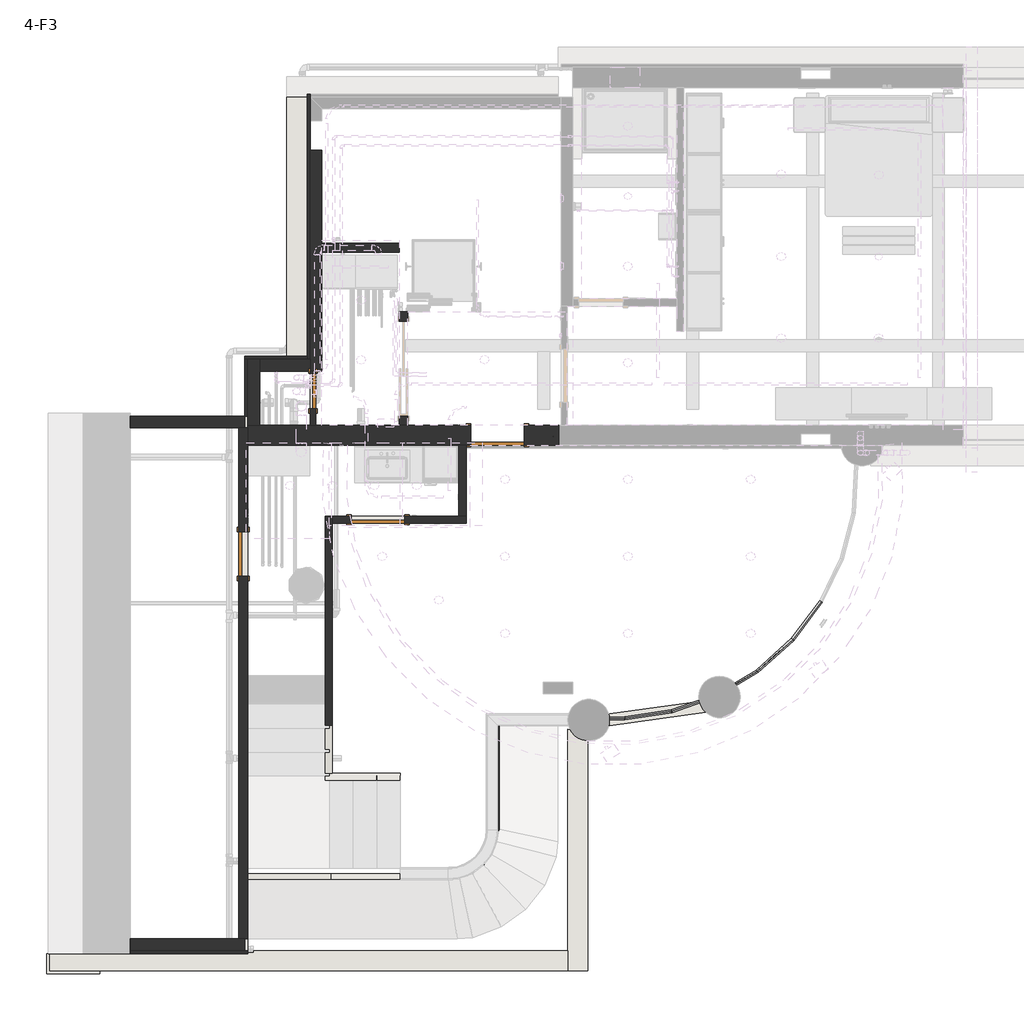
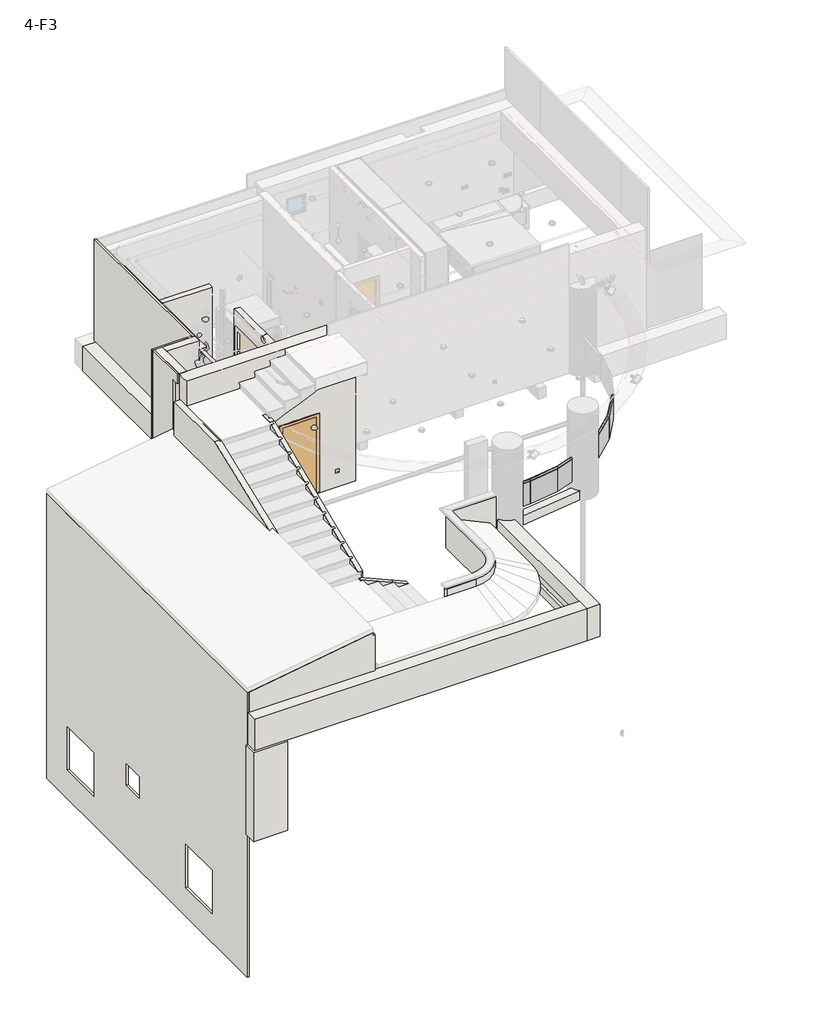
# One storey, part 1 of 11: 31 walls, 6 members, 6 plates, 4 doors.
"""IFC4 building model written with IfcOpenShell, lengths in millimetres."""

from ifc_helpers import new_model, si_unit, point, frame, frame_2d, origin, place, context, project, spatial, polyline, circle_curve, trimmed, segment, composite_curve, outline, extrude, faceted_brep, transform, mapped, element, save
from ifc_brep_helpers import plane_surface, revolved_surface, advanced_brep
from components import m_single_flush_0750x120mm_57592dc2, m_single_flush_0900_x_2100mm_0846cce0, m_single_flush_0900_x_2400mm_ed8d41a7, m_single_flush_600x160mm_9ce3fd48, circular_mullion_25mm_radius_00b6462a, circular_mullion_25mm_radius_450b6582, circular_mullion_25mm_radius_713549ac, system_panel_glazed_cc563820, system_panel_glazed_07a81bf9

model = new_model("IFC4")

# Units and contexts
model_context = context("Model", 3, world=origin())
ifc_project = project(units=[si_unit("LENGTHUNIT", "METRE", prefix="MILLI")], contexts=[model_context])

# Site, building, storey
site = spatial("IfcSite", under=ifc_project)
building = spatial("IfcBuilding", under=site)
storey = spatial("IfcBuildingStorey", under=building, Name="4-F3", Elevation=9900.0)

# Doors
placement = place(None, origin())
m_single_flush_0750x120mm_shape = m_single_flush_0750x120mm_57592dc2(model_context)
element("IfcDoor", 1, ObjectType="M_Single-Flush : 0750x120mm", at=placement, inside=storey, context=model_context, shape_type="MappedRepresentation", body=[
    mapped(m_single_flush_0750x120mm_shape, transform((-6185.0, 1001.4863231, 9950.0), x_axis=(0.0, 1.0, 0.0), y_axis=(-1.0, 0.0, 0.0), z_axis=(0.0, 0.0, 1.0))),
])
m_single_flush_0900_x_2100mm_shape = m_single_flush_0900_x_2100mm_0846cce0(model_context)
element("IfcDoor", 2, ObjectType="M_Single-Flush : 0900 x 2100mm", at=placement, inside=storey, context=model_context, shape_type="MappedRepresentation", body=[
    mapped(m_single_flush_0900_x_2100mm_shape, transform((-3913.9765921, 1580.6486583, 9950.0), x_axis=(-1.0, 0.0, 0.0), y_axis=(0.0, -1.0, 0.0), z_axis=(0.0, 0.0, 1.0))),
])
m_single_flush_0900_x_2400mm_shape = m_single_flush_0900_x_2400mm_ed8d41a7(model_context)
element("IfcDoor", 3, ObjectType="M_Single-Flush : 0900 x 2400mm", at=placement, inside=storey, context=model_context, shape_type="MappedRepresentation", body=[
    mapped(m_single_flush_0900_x_2400mm_shape, transform((-1901.5261339, 3000.6486583, 9900.0), x_axis=(-1.0, 0.0, 0.0), y_axis=(0.0, -1.0, 0.0), z_axis=(0.0, 0.0, 1.0))),
])
m_single_flush_600x160mm_shape = m_single_flush_600x160mm_9ce3fd48(model_context)
element("IfcDoor", 4, ObjectType="M_Single-Flush : 600x160mm", at=placement, inside=storey, context=model_context, shape_type="MappedRepresentation", body=[
    mapped(m_single_flush_600x160mm_shape, transform((-5007.4765921, 3750.4711943, 10850.0), x_axis=(0.0, -1.0, 0.0), y_axis=(1.0, 0.0, 0.0), z_axis=(0.0, 0.0, 1.0))),
])

# Members
circular_mullion_25mm_radius_shape = circular_mullion_25mm_radius_00b6462a(model_context)
element("IfcMember", 5, ObjectType="Circular Mullion : 25mm Radius", at=placement, inside=storey, context=model_context, shape_type="MappedRepresentation", body=[
    mapped(circular_mullion_25mm_radius_shape, transform((1036.0423677, -1651.0312758, 11010.0), x_axis=(0.0, 0.0, 1.0), y_axis=(-0.3353212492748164, 0.9421038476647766, 0.0), z_axis=(-0.9421038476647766, -0.3353212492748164, 0.0))),
])
element("IfcMember", 6, ObjectType="Circular Mullion : 25mm Radius", at=placement, inside=storey, context=model_context, shape_type="MappedRepresentation", body=[
    mapped(circular_mullion_25mm_radius_shape, transform((1789.7254458, -1382.7742764, 11010.0), x_axis=(0.0, 0.0, 1.0), y_axis=(-0.5114907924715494, 0.8592887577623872, 0.0), z_axis=(-0.8592887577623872, -0.5114907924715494, 0.0))),
])
element("IfcMember", 7, ObjectType="Circular Mullion : 25mm Radius", at=placement, inside=storey, context=model_context, shape_type="MappedRepresentation", body=[
    mapped(circular_mullion_25mm_radius_shape, transform((2477.1564521, -973.5816424, 11010.0), x_axis=(0.0, 0.0, 1.0), y_axis=(-0.6682778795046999, 0.743911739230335, 0.0), z_axis=(-0.7439117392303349, -0.6682778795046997, 0.0))),
])
element("IfcMember", 8, ObjectType="Circular Mullion : 25mm Radius", at=placement, inside=storey, context=model_context, shape_type="MappedRepresentation", body=[
    mapped(circular_mullion_25mm_radius_shape, transform((3072.2858434, -438.9593388, 11010.0), x_axis=(0.0, 0.0, 1.0), y_axis=(-0.7997412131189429, 0.6003448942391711, 0.0), z_axis=(-0.6003448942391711, -0.7997412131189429, 0.0))),
])
circular_mullion_25mm_radius_2_shape = circular_mullion_25mm_radius_450b6582(model_context)
element("IfcMember", 9, ObjectType="Circular Mullion : 25mm Radius", at=placement, inside=storey, context=model_context, shape_type="MappedRepresentation", body=[
    mapped(circular_mullion_25mm_radius_2_shape, transform((244.6673197, -1768.1872973, 11010.0), x_axis=(0.0, 0.0, 1.0), y_axis=(-0.14644502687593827, 0.9892188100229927, 0.0), z_axis=(-0.9892188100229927, -0.14644502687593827, 0.0))),
])
circular_mullion_25mm_radius_3_shape = circular_mullion_25mm_radius_713549ac(model_context)
element("IfcMember", 10, ObjectType="Circular Mullion : 25mm Radius", at=placement, inside=storey, context=model_context, shape_type="MappedRepresentation", body=[
    mapped(circular_mullion_25mm_radius_3_shape, transform((-12.7712602, -1772.8617996, 11010.0), x_axis=(0.0, 0.0, 1.0), y_axis=(-0.01815474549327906, 0.9998351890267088, 0.0), z_axis=(-0.9998351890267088, -0.01815474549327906, 0.0))),
])

# Plates
system_panel_glazed_shape = system_panel_glazed_cc563820(model_context)
element("IfcPlate", 11, ObjectType="System Panel : Glazed", at=placement, inside=storey, context=model_context, shape_type="MappedRepresentation", body=[
    mapped(system_panel_glazed_shape, transform((3312.4238011, -119.0628535, 10330.0), x_axis=(-0.6003448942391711, -0.7997412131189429, 0.0), y_axis=(0.7997412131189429, -0.6003448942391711, 0.0), z_axis=(0.0, 0.0, 1.0))),
])
element("IfcPlate", 12, ObjectType="System Panel : Glazed", at=placement, inside=storey, context=model_context, shape_type="MappedRepresentation", body=[
    mapped(system_panel_glazed_shape, transform((2774.7211477, -706.2704906, 10330.0), x_axis=(-0.7439117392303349, -0.6682778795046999, 0.0), y_axis=(0.6682778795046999, -0.7439117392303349, 0.0), z_axis=(0.0, 0.0, 1.0))),
])
element("IfcPlate", 13, ObjectType="System Panel : Glazed", at=placement, inside=storey, context=model_context, shape_type="MappedRepresentation", body=[
    mapped(system_panel_glazed_shape, transform((2133.4409489, -1178.1779594, 10330.0), x_axis=(-0.8592887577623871, -0.5114907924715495, 0.0), y_axis=(0.5114907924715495, -0.8592887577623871, 0.0), z_axis=(0.0, 0.0, 1.0))),
])
element("IfcPlate", 14, ObjectType="System Panel : Glazed", at=placement, inside=storey, context=model_context, shape_type="MappedRepresentation", body=[
    mapped(system_panel_glazed_shape, transform((1412.8839068, -1516.9027761, 10330.0), x_axis=(-0.9421038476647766, -0.3353212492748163, 0.0), y_axis=(0.3353212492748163, -0.9421038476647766, 0.0), z_axis=(0.0, 0.0, 1.0))),
])
element("IfcPlate", 15, ObjectType="System Panel : Glazed", at=placement, inside=storey, context=model_context, shape_type="MappedRepresentation", body=[
    mapped(system_panel_glazed_shape, transform((640.3548437, -1709.6092865, 10330.0), x_axis=(-0.9892188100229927, -0.14644502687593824, 0.0), y_axis=(0.14644502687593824, -0.9892188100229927, 0.0), z_axis=(0.0, 0.0, 1.0))),
])
system_panel_glazed_2_shape = system_panel_glazed_07a81bf9(model_context)
element("IfcPlate", 16, ObjectType="System Panel : Glazed", at=placement, inside=storey, context=model_context, shape_type="MappedRepresentation", body=[
    mapped(system_panel_glazed_2_shape, transform((115.9480298, -1770.5245484, 10330.0), x_axis=(-0.9998351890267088, -0.01815474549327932, 0.0), y_axis=(0.01815474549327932, -0.9998351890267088, 0.0), z_axis=(0.0, 0.0, 1.0))),
])

# Walls
element("IfcWall", 17, ObjectType="34cm", at=placement, inside=storey, context=model_context, shape_type="Brep", body=[
    faceted_brep([(-2351.5261339, 3170.6486583, 12325.0), (-2351.5261339, 3170.6486583, 9900.0), (-5907.4765921, 3170.6486583, 9900.0), (-6107.4765921, 3170.6486583, 9900.0), (-6107.4765921, 3170.6486583, 13150.0), (-5907.4765921, 3170.6486583, 13150.0), (-867.4765921, 3170.6486583, 13150.0), (-867.4765921, 3170.6486583, 9900.0), (-1451.5261339, 3170.6486583, 9900.0), (-1451.5261339, 3170.6486583, 12325.0), (-6107.4765921, 2830.6486583, 9900.0), (-2351.5261339, 2830.6486583, 9900.0), (-2351.5261339, 2830.6486583, 12325.0), (-1451.5261339, 2830.6486583, 12325.0), (-1451.5261339, 2830.6486583, 9900.0), (-867.4765921, 2830.6486583, 9900.0), (-867.4765921, 2830.6486583, 13150.0), (-6107.4765921, 2830.6486583, 13150.0), (-6107.4765921, 3000.6486583, 13150.0)], [[[0, 1, 2, 3, 4, 5, 6, 7, 8, 9]], [[10, 11, 12, 13, 14, 15, 16, 17]], [[6, 5, 4, 18, 17, 16]], [[8, 7, 15, 14]], [[3, 2, 1, 11, 10]], [[7, 6, 16, 15]], [[12, 11, 1, 0]], [[13, 12, 0, 9]], [[14, 13, 9, 8]], [[4, 3, 10, 17, 18]]]),
])
element("IfcWall", 18, ObjectType="Generic - 200 balcony", at=placement, inside=storey, context=model_context, shape_type="Brep", body=[
    faceted_brep([(-9417.4765921, -5684.0873245, 9900.0), (-6110.0, -5684.0873245, 9900.0), (-6110.0, -5684.0873245, 10900.0), (-6157.4765921, -5684.0873245, 10900.0), (-6157.4765921, -5684.0873245, 11401.5370187), (-9417.4765921, -5684.0873245, 10892.4236861), (-9417.4765921, -5484.0873245, 9900.0), (-9417.4765921, -5484.0873245, 10892.4236861), (-6157.4765921, -5484.0873245, 11401.5370187), (-6157.4765921, -5484.0873245, 10900.0), (-6110.0, -5484.0873245, 10900.0), (-6110.0, -5484.0873245, 9900.0), (-6260.0, -5484.0873245, 9900.0), (-9217.4765921, -5484.0873245, 9900.0)], [[[0, 1, 2, 3, 4, 5]], [[6, 7, 8, 9, 10, 11, 12, 13]], [[1, 0, 6, 13, 12, 11]], [[2, 1, 11, 10]], [[3, 2, 10, 9]], [[3, 9, 8, 4]], [[5, 4, 8, 7]], [[0, 5, 7, 6]]]),
])
element("IfcWall", 19, ObjectType="Generic - 200 balcony", at=placement, inside=storey, context=model_context, shape_type="Brep", body=[
    faceted_brep([(-9417.4765921, 3126.4863231, 9900.0), (-9217.4765921, 3126.4863231, 9900.0), (-6260.0, 3126.4863231, 9900.0), (-6110.0, 3126.4863231, 9900.0), (-6110.0, 3126.4863231, 10900.0), (-6157.4765921, 3126.4863231, 10900.0), (-6157.4765921, 3126.4863231, 11401.5370187), (-9417.4765921, 3126.4863231, 10892.4236861), (-9417.4765921, 3326.4863231, 9900.0), (-9417.4765921, 3326.4863231, 10892.4236861), (-6157.4765921, 3326.4863231, 11401.5370187), (-6157.4765921, 3326.4863231, 10900.0), (-6110.0, 3326.4863231, 10900.0), (-6110.0, 3326.4863231, 9900.0)], [[[0, 1, 2, 3, 4, 5, 6, 7]], [[8, 9, 10, 11, 12, 13]], [[3, 2, 1, 0, 8, 13]], [[4, 3, 13, 12]], [[5, 4, 12, 11]], [[5, 11, 10, 6]], [[7, 6, 10, 9]], [[0, 7, 9, 8]]]),
])
element("IfcWall", 20, ObjectType="Generic - 200 balcony", at=placement, inside=storey, context=model_context, shape_type="Brep", body=[
    faceted_brep([(-9417.4765921, 3126.4863231, 9900.0), (-9417.4765921, -5484.0873245, 9900.0), (-9417.4765921, -5484.0873245, 10892.4236861), (-9417.4765921, -5484.0873245, 10900.0), (-9417.4765921, 3126.4863231, 10900.0), (-9417.4765921, 3126.4863231, 10892.4236861), (-9217.4765921, 3126.4863231, 9900.0), (-9217.4765921, 3126.4863231, 10900.0), (-9217.4765921, -5484.0873245, 10900.0), (-9217.4765921, -5484.0873245, 9900.0)], [[[0, 1, 2, 3, 4, 5]], [[6, 7, 8, 9]], [[1, 0, 6, 9]], [[4, 3, 8, 7]], [[3, 2, 1, 9, 8]], [[0, 5, 4, 7, 6]]]),
])
element("IfcWall", 21, ObjectType="Generic - 200mm", at=placement, inside=storey, context=model_context, shape_type="Brep", body=[
    faceted_brep([(-6107.4765921, 4284.4560655, 9900.0), (-6107.4765921, 3170.6486583, 9900.0), (-6107.4765921, 3170.6486583, 13150.0), (-6107.4765921, 4284.4560655, 13150.0), (-5907.4765921, 4284.4560655, 9900.0), (-5907.4765921, 4284.4560655, 13150.0), (-5907.4765921, 4084.4560655, 13150.0), (-5907.4765921, 3170.6486583, 13150.0), (-5907.4765921, 3170.6486583, 9900.0), (-5907.4765921, 4084.4560655, 9900.0)], [[[0, 1, 2, 3]], [[4, 5, 6, 7, 8, 9]], [[1, 0, 4, 9, 8]], [[3, 2, 7, 6, 5]], [[0, 3, 5, 4]], [[2, 1, 8, 7]]]),
])
element("IfcWall", 22, ObjectType="Generic - 200mm", at=placement, inside=storey, context=model_context, shape_type="Brep", body=[
    faceted_brep([(-5057.4765921, 4284.4560655, 13150.0), (-5057.4765921, 4284.4560655, 10330.0), (-5057.4765921, 4284.4560655, 9900.0), (-5907.4765921, 4284.4560655, 9900.0), (-5907.4765921, 4284.4560655, 13150.0), (-5107.4765921, 4284.4560655, 13150.0), (-5057.4765921, 4084.4560655, 9900.0), (-5057.4765921, 4084.4560655, 12900.0), (-5057.4765921, 4084.4560655, 13150.0), (-5907.4765921, 4084.4560655, 13150.0), (-5907.4765921, 4084.4560655, 9900.0)], [[[0, 1, 2, 3, 4, 5]], [[6, 7, 8, 9, 10]], [[3, 2, 6, 10]], [[0, 5, 4, 9, 8]], [[4, 3, 10, 9]], [[0, 8, 7, 6, 2, 1]]]),
])
element("IfcWall", 23, ObjectType="Generic - 200mm", at=placement, inside=storey, context=model_context, shape_type="SweptSolid", body=[
    extrude(outline(composite_curve([segment(polyline([(1534.9250543, -1481.4785051), (1607.7874296, -1667.7339057)]), True, "CONTINUOUS"), segment(trimmed(circle_curve(frame_2d((41.375057, 2336.428223)), 4299.6467383), [point((1607.7874296, -1667.7339057))], [point((-375.6079311, -1942.951085))], False, "CARTESIAN"), True, "CONTINUOUS"), segment(polyline([(-375.6079311, -1942.951085), (-375.6079311, -1741.9573113)]), True, "CONTINUOUS"), segment(trimmed(circle_curve(frame_2d((41.375057, 2336.428223)), 4099.6467383), [point((-375.6079311, -1741.9573113))], [point((1534.9250543, -1481.4785051))], True, "CARTESIAN"), True, "CONTINUOUS")], self_intersect=False)), frame((0.0, 0.0, 9900.0), z_axis=(0.0, 0.0, 1.0), x_axis=(1.0, 0.0, 0.0)), (0.0, 0.0, 1.0), 250.0),
])
element("IfcWall", 24, ObjectType="Generic - 200mm", at=placement, inside=storey, context=model_context, shape_type="Brep", body=[
    faceted_brep([(-5057.4765921, 7801.6620874, 9900.0), (-5057.4765921, 4284.4560655, 9900.0), (-5057.4765921, 4084.4560655, 9900.0), (-5057.4765921, 4084.4560655, 12900.0), (-5057.4765921, 7801.6620874, 12900.0), (-4857.4765921, 4084.4560655, 9900.0), (-4857.4765921, 6084.4560655, 9900.0), (-4857.4765921, 6234.4560655, 9900.0), (-4857.4765921, 7801.6620874, 9900.0), (-4857.4765921, 7801.6620874, 12900.0), (-4857.4765921, 6234.4560655, 12900.0), (-4857.4765921, 6084.4560655, 12900.0), (-4857.4765921, 4084.4560655, 12900.0), (-4857.4765921, 4314.4560655, 11020.0), (-4857.4765921, 4314.4560655, 11080.0), (-4857.4765921, 4374.4560655, 11080.0), (-4857.4765921, 4374.4560655, 11020.0), (-4957.4765921, 4084.4560655, 9900.0), (-4957.4765921, 4084.4560655, 12900.0), (-4907.4765921, 4314.4560655, 11020.0), (-4907.4765921, 4374.4560655, 11020.0), (-4907.4765921, 4374.4560655, 11080.0), (-4907.4765921, 4314.4560655, 11080.0)], [[[0, 1, 2, 3, 4]], [[5, 6, 7, 8, 9, 10, 11, 12], [13, 14, 15, 16]], [[2, 1, 0, 8, 7, 6, 5, 17]], [[0, 4, 9, 8]], [[4, 3, 18, 12, 11, 10, 9]], [[3, 2, 17, 5, 12, 18]], [[19, 20, 21, 22]], [[19, 22, 14, 13]], [[22, 21, 15, 14]], [[21, 20, 16, 15]], [[20, 19, 13, 16]]]),
])
element("IfcWall", 25, ObjectType="Generic -10", at=placement, inside=storey, context=model_context, shape_type="SweptSolid", body=[
    extrude(outline(polyline([(9900.0, -3494.1171243), (10067.4746791, -3494.1171243), (10586.3455042, -4707.4765921), (10586.3455042, -6110.0), (9900.0, -6110.0), (9900.0, -3494.1171243)])), frame((0.0, -4485.2669739, 0.0), z_axis=(0.0, 1.0, 0.0), x_axis=(0.0, 0.0, 1.0)), (0.0, 0.0, 1.0), 100.0),
])
element("IfcWall", 26, ObjectType="Generic -10", at=placement, inside=storey, context=model_context, shape_type="AdvancedBrep", body=[
    advanced_brep(
    [(-2724.0785276, -4385.2669739, 9900.0), (-3507.4765921, -4385.2669739, 9900.0), (-3507.4765921, -4385.2669739, 10920.0), (-2724.0785276, -4385.2669739, 10920.0), (-2995.0, -4385.2669739, 10595.7789892), (-2885.0, -4385.2669739, 10595.7789892), (-3507.4765921, -4485.2669739, 9900.0), (-2724.0785276, -4485.2669739, 9900.0), (-2724.0785276, -4485.2669739, 10920.0), (-3507.4765921, -4485.2669739, 10920.0), (-2885.0, -4423.3669739, 10595.7789892), (-2995.0, -4423.3669739, 10595.7789892)],
    [
        (0, 1),
        (1, 2),
        (2, 3),
        (3, 0),
        (4, 5, circle_curve(frame((-2940.0, -4385.2669739, 10595.7789892), z_axis=(0.0, -1.0, 0.0), x_axis=(-1.0, 0.0, 0.0)), 55.0)),
        (5, 4, circle_curve(frame((-2940.0, -4385.2669739, 10595.7789892), z_axis=(0.0, -1.0, 0.0), x_axis=(-1.0, 0.0, 0.0)), 55.0)),
        (6, 7),
        (7, 8),
        (8, 9),
        (9, 6),
        (0, 7),
        (6, 1),
        (9, 2),
        (8, 3),
        (10, 11, circle_curve(frame((-2940.0, -4423.3669739, 10595.7789892), z_axis=(0.0, 1.0, 0.0), x_axis=(-1.0, 0.0, 0.0)), 55.0)),
        (11, 10, circle_curve(frame((-2940.0, -4423.3669739, 10595.7789892), z_axis=(0.0, 1.0, 0.0), x_axis=(-1.0, 0.0, 0.0)), 55.0)),
        (10, 5),
        (4, 11),
    ],
    [
        plane_surface(frame((-2724.0785276, -4385.2669739, 9900.0), z_axis=(0.0, 1.0, 0.0), x_axis=(-1.0, 0.0, 0.0))),
        plane_surface(frame((-2724.0785276, -4485.2669739, 9900.0), z_axis=(0.0, -1.0, 0.0), x_axis=(1.0, 0.0, 0.0))),
        plane_surface(frame((-2724.0785276, -4385.2669739, 9900.0), z_axis=(0.0, 0.0, -1.0), x_axis=(0.0, -1.0, 0.0))),
        plane_surface(frame((-3507.4765921, -4385.2669739, 9900.0), z_axis=(-1.0, 0.0, 0.0), x_axis=(0.0, -1.0, 0.0))),
        plane_surface(frame((-3507.4765921, -4385.2669739, 10920.0), z_axis=(0.0, 0.0, 1.0), x_axis=(0.0, -1.0, 0.0))),
        plane_surface(frame((-2724.0785276, -4385.2669739, 10920.0), z_axis=(1.0, 0.0, 0.0), x_axis=(0.0, -1.0, 0.0))),
        plane_surface(frame((-2995.0, -4423.3669739, 10595.7789892), z_axis=(0.0, 1.0, 0.0), x_axis=(0.0, 0.0, -1.0))),
        revolved_surface(polyline([(-2995.0, -4385.2669739, 10595.7789892), (-2995.0, -4423.3669739, 10595.7789892)]), (-2940.0, -4423.3669739, 10595.7789892), (0.0, 1.0, 0.0)),
    ],
    [
        (0, [[1, 2, 3, 4], [5, 6]]),
        (1, [[7, 8, 9, 10]]),
        (2, [[-1, 11, -7, 12]]),
        (3, [[-2, -12, -10, 13]]),
        (4, [[-3, -13, -9, 14]]),
        (5, [[-4, -14, -8, -11]]),
        (6, [[15, 16]]),
        (7, [[-15, 17, -5, 18]]),
        (7, [[-16, -18, -6, -17]]),
    ],
),
])
element("IfcWall", 27, ObjectType="Generic -10", at=placement, inside=storey, context=model_context, shape_type="SweptSolid", body=[
    extrude(outline(composite_curve([segment(polyline([(-2724.0785276, -4485.2669739), (-2724.0785276, -4385.2669739)]), True, "CONTINUOUS"), segment(trimmed(circle_curve(frame_2d((-2724.0785276, -3632.1555768)), 753.1113971), [point((-2724.0785276, -4385.2669739))], [point((-1970.9671306, -3632.1555768))], True, "CARTESIAN"), True, "CONTINUOUS"), segment(polyline([(-1970.9671306, -3632.1555768), (-1870.9671306, -3632.1555768)]), True, "CONTINUOUS"), segment(trimmed(circle_curve(frame_2d((-2724.0785276, -3632.1555768)), 853.1113971), [point((-1870.9671306, -3632.1555768))], [point((-2724.0785276, -4485.2669739))], False, "CARTESIAN"), True, "CONTINUOUS")], self_intersect=False)), frame((0.0, 0.0, 9900.0), z_axis=(0.0, 0.0, 1.0), x_axis=(1.0, 0.0, 0.0)), (0.0, 0.0, 1.0), 1020.0),
])
element("IfcWall", 28, ObjectType="Generic -10", at=placement, inside=storey, context=model_context, shape_type="Brep", body=[
    faceted_brep([(-1970.9661191, -1792.1554926, 9900.0), (-1970.9661191, -3632.1555768, 9900.0), (-1970.9661191, -3632.1555768, 10920.0), (-1970.9661191, -1792.1554926, 10920.0), (-1870.9661191, -1792.1554926, 9900.0), (-1870.9661191, -1792.1554926, 10920.0), (-1870.9661191, -3632.1555768, 10920.0), (-1870.9661191, -3632.1555768, 9900.0), (-1870.9661191, -1892.1554926, 9900.0)], [[[0, 1, 2, 3]], [[4, 5, 6, 7, 8]], [[1, 0, 4, 8, 7]], [[2, 1, 7, 6]], [[3, 2, 6, 5]], [[0, 3, 5, 4]]]),
])
element("IfcWall", 29, ObjectType="Generic -10", at=placement, inside=storey, context=model_context, shape_type="Brep", body=[
    faceted_brep([(-715.6079311, -1792.1554926, 9900.0), (-1870.9661191, -1792.1554926, 9900.0), (-1870.9661191, -1792.1554926, 10920.0), (-1870.9661191, -1792.1554926, 10931.7474557), (-715.6079311, -1792.1554926, 10931.7474557), (-715.6079311, -1892.1554926, 9900.0), (-715.6079311, -1892.1554926, 10931.7474557), (-1870.9661191, -1892.1554926, 10931.7474557), (-1870.9661191, -1892.1554926, 9900.0)], [[[0, 1, 2, 3, 4]], [[5, 6, 7, 8]], [[1, 0, 5, 8]], [[4, 3, 7, 6]], [[3, 2, 1, 8, 7]], [[0, 4, 6, 5]]]),
])
element("IfcWall", 30, ObjectType="Generic -10", at=placement, inside=storey, context=model_context, shape_type="SweptSolid", body=[
    extrude(outline(polyline([(4084.4560655, 9900.0), (3170.6486583, 9900.0), (3170.6486583, 12900.0), (4084.4560655, 12900.0), (4084.4560655, 9900.0)]), holes=[polyline([(3450.4711943, 10850.0), (4050.4711943, 10850.0), (4050.4711943, 12450.0), (3450.4711943, 12450.0), (3450.4711943, 10850.0)])]), frame((-5057.4765921, 0.0, 0.0), z_axis=(1.0, 0.0, 0.0), x_axis=(0.0, 1.0, 0.0)), (0.0, 0.0, 1.0), 100.0),
])
element("IfcWall", 31, ObjectType="Generic -120mm", at=placement, inside=storey, context=model_context, shape_type="Brep", body=[
    faceted_brep([(-3536.0979415, -2692.1554926, 9900.0), (-4680.0, -2692.1554926, 9900.0), (-4800.0, -2692.1554926, 9900.0), (-4800.0, -2692.1554926, 10613.3732317), (-3536.0979415, -2692.1554926, 10066.6727463), (-3536.0979415, -2812.1554926, 9900.0), (-3536.0979415, -2812.1554926, 10066.6727463), (-4800.0, -2812.1554926, 10613.3732317), (-4800.0, -2812.1554926, 9900.0)], [[[0, 1, 2, 3, 4]], [[5, 6, 7, 8]], [[3, 2, 8, 7]], [[2, 1, 0, 5, 8]], [[0, 4, 6, 5]], [[4, 3, 7, 6]]]),
])
element("IfcWall", 32, ObjectType="Generic -120mm", at=placement, inside=storey, context=model_context, shape_type="Brep", body=[
    faceted_brep([(-4680.0, -2692.1554926, 9900.0), (-4680.0, 1520.6486583, 9900.0), (-4680.0, 1640.6486583, 9900.0), (-4680.0, 1640.6486583, 12282.7410429), (-4680.0, 1640.6486583, 12469.5676991), (-4680.0, 1334.9746736, 12469.5676991), (-4680.0, -2692.1554926, 10755.1483073), (-4800.0, -2692.1554926, 9900.0), (-4800.0, -2692.1554926, 10613.3732317), (-4800.0, -2692.1554926, 10755.1483073), (-4800.0, 1334.9746736, 12469.5676991), (-4800.0, 1640.6486583, 12469.5676991), (-4800.0, 1640.6486583, 9900.0)], [[[0, 1, 2, 3, 4, 5, 6]], [[7, 8, 9, 10, 11, 12]], [[0, 6, 9, 8, 7]], [[4, 3, 2, 12, 11]], [[2, 1, 0, 7, 12]], [[5, 4, 11, 10]], [[6, 5, 10, 9]]]),
])
element("IfcWall", 33, ObjectType="Generic -120mm", at=placement, inside=storey, context=model_context, shape_type="Brep", body=[
    faceted_brep([(-4680.0, 1520.6486583, 9900.0), (-2427.4765921, 1520.6486583, 9900.0), (-2427.4765921, 1520.6486583, 12820.0), (-3423.6405927, 1520.6486583, 12820.0), (-4680.0, 1520.6486583, 12282.7410429), (-3463.9765921, 1520.6486583, 9950.0), (-4363.9765921, 1520.6486583, 9950.0), (-4363.9765921, 1520.6486583, 12050.0), (-3463.9765921, 1520.6486583, 12050.0), (-2947.6151583, 1520.6486583, 10320.0), (-2947.6151583, 1520.6486583, 10380.0), (-2887.6151583, 1520.6486583, 10380.0), (-2887.6151583, 1520.6486583, 10320.0), (-2427.4765921, 1640.6486583, 9900.0), (-2547.4765921, 1640.6486583, 9900.0), (-4680.0, 1640.6486583, 9900.0), (-4680.0, 1640.6486583, 12282.7410429), (-3423.6405927, 1640.6486583, 12820.0), (-2427.4765921, 1640.6486583, 12820.0), (-3463.9765921, 1640.6486583, 9950.0), (-3463.9765921, 1640.6486583, 12050.0), (-4363.9765921, 1640.6486583, 12050.0), (-4363.9765921, 1640.6486583, 9950.0), (-3277.4765921, 1640.6486583, 11020.0), (-3277.4765921, 1640.6486583, 11080.0), (-3337.4765921, 1640.6486583, 11080.0), (-3337.4765921, 1640.6486583, 11020.0), (-2947.6151583, 1570.6486583, 10320.0), (-2887.6151583, 1570.6486583, 10320.0), (-2887.6151583, 1570.6486583, 10380.0), (-2947.6151583, 1570.6486583, 10380.0), (-3277.4765921, 1590.6486583, 11020.0), (-3337.4765921, 1590.6486583, 11020.0), (-3337.4765921, 1590.6486583, 11080.0), (-3277.4765921, 1590.6486583, 11080.0)], [[[0, 1, 2, 3, 4], [5, 6, 7, 8], [9, 10, 11, 12]], [[13, 14, 15, 16, 17, 18], [19, 20, 21, 22], [23, 24, 25, 26]], [[0, 4, 16, 15]], [[2, 1, 13, 18]], [[6, 5, 19, 22]], [[7, 6, 22, 21]], [[8, 7, 21, 20]], [[5, 8, 20, 19]], [[27, 28, 29, 30]], [[27, 30, 10, 9]], [[30, 29, 11, 10]], [[29, 28, 12, 11]], [[28, 27, 9, 12]], [[31, 32, 33, 34]], [[31, 34, 24, 23]], [[34, 33, 25, 24]], [[33, 32, 26, 25]], [[32, 31, 23, 26]], [[1, 0, 15, 14, 13]], [[3, 2, 18, 17]], [[4, 3, 17, 16]]]),
])
element("IfcWall", 34, ObjectType="Generic -120mm", at=placement, inside=storey, context=model_context, shape_type="Brep", body=[
    faceted_brep([(-2547.4765921, 2830.6486583, 9900.0), (-2547.4765921, 1640.6486583, 9900.0), (-2547.4765921, 1640.6486583, 12850.0), (-2547.4765921, 2830.6486583, 12850.0), (-2547.4765921, 1990.1275048, 10320.0), (-2547.4765921, 1990.1275048, 10380.0), (-2547.4765921, 1930.1275048, 10380.0), (-2547.4765921, 1930.1275048, 10320.0), (-2427.4765921, 1640.6486583, 9900.0), (-2427.4765921, 2780.6486583, 9900.0), (-2427.4765921, 2830.6486583, 9900.0), (-2427.4765921, 2830.6486583, 12850.0), (-2427.4765921, 1640.6486583, 12850.0), (-2427.4765921, 1640.6486583, 12820.0), (-2497.4765921, 1990.1275048, 10320.0), (-2497.4765921, 1930.1275048, 10320.0), (-2497.4765921, 1930.1275048, 10380.0), (-2497.4765921, 1990.1275048, 10380.0)], [[[0, 1, 2, 3], [4, 5, 6, 7]], [[8, 9, 10, 11, 12, 13]], [[1, 0, 10, 9, 8]], [[3, 2, 12, 11]], [[0, 3, 11, 10]], [[2, 1, 8, 13, 12]], [[14, 15, 16, 17]], [[14, 17, 5, 4]], [[17, 16, 6, 5]], [[16, 15, 7, 6]], [[15, 14, 4, 7]]]),
])
element("IfcWall", 35, ObjectType="Generic -150mm", at=placement, inside=storey, context=model_context, shape_type="SweptSolid", body=[
    extrude(outline(polyline([(3170.6486583, 9900.0), (3170.6486583, 12900.0), (5084.4560655, 12900.0), (5084.4560655, 9900.0), (4924.4560655, 9900.0), (4924.4560655, 12400.0), (3324.4560655, 12400.0), (3324.4560655, 9900.0), (3170.6486583, 9900.0)])), frame((-3557.4765921, 0.0, 0.0), z_axis=(1.0, 0.0, 0.0), x_axis=(0.0, 1.0, 0.0)), (0.0, 0.0, 1.0), 150.0),
])
element("IfcWall", 36, ObjectType="Generic -150mm", at=placement, inside=storey, context=model_context, shape_type="Brep", body=[
    faceted_brep([(-4857.4765921, 6084.4560655, 9900.0), (-3557.4765921, 6084.4560655, 9900.0), (-3557.4765921, 6084.4560655, 12900.0), (-4857.4765921, 6084.4560655, 12900.0), (-3967.4765921, 6084.4560655, 10320.0), (-3967.4765921, 6084.4560655, 10380.0), (-3907.4765921, 6084.4560655, 10380.0), (-3907.4765921, 6084.4560655, 10320.0), (-3557.4765921, 6234.4560655, 9900.0), (-4857.4765921, 6234.4560655, 9900.0), (-4857.4765921, 6234.4560655, 12900.0), (-3557.4765921, 6234.4560655, 12900.0), (-3967.4765921, 6134.4560655, 10320.0), (-3907.4765921, 6134.4560655, 10320.0), (-3907.4765921, 6134.4560655, 10380.0), (-3967.4765921, 6134.4560655, 10380.0)], [[[0, 1, 2, 3], [4, 5, 6, 7]], [[8, 9, 10, 11]], [[1, 0, 9, 8]], [[3, 2, 11, 10]], [[2, 1, 8, 11]], [[0, 3, 10, 9]], [[12, 13, 14, 15]], [[12, 15, 5, 4]], [[15, 14, 6, 5]], [[14, 13, 7, 6]], [[13, 12, 4, 7]]]),
])
element("IfcWall", 37, ObjectType="Generic -150mm", at=placement, inside=storey, context=model_context, shape_type="Brep", body=[
    faceted_brep([(-6260.0, 3126.4863231, 9900.0), (-6260.0, -5484.0873245, 9900.0), (-6260.0, -5484.0873245, 11400.0), (-6260.0, -1487.0707908, 11400.0), (-6260.0, 1289.7330261, 12465.7894737), (-6260.0, 3126.4863231, 12465.7894737), (-6260.0, 626.4863231, 9950.0), (-6260.0, 1376.4863231, 9950.0), (-6260.0, 1376.4863231, 11350.0), (-6260.0, 626.4863231, 11350.0), (-6110.0, 3126.4863231, 9900.0), (-6110.0, 3126.4863231, 10900.0), (-6110.0, 3126.4863231, 12465.7894737), (-6110.0, 1289.7330261, 12465.7894737), (-6110.0, -1487.0707908, 11400.0), (-6110.0, -5484.0873245, 11400.0), (-6110.0, -5484.0873245, 10900.0), (-6110.0, -5484.0873245, 9900.0), (-6110.0, -4485.2669739, 9900.0), (-6110.0, -4385.2669739, 9900.0), (-6110.0, 626.4863231, 9950.0), (-6110.0, 626.4863231, 11350.0), (-6110.0, 1376.4863231, 11350.0), (-6110.0, 1376.4863231, 9950.0)], [[[0, 1, 2, 3, 4, 5], [6, 7, 8, 9]], [[10, 11, 12, 13, 14, 15, 16, 17, 18, 19], [20, 21, 22, 23]], [[1, 0, 10, 19, 18, 17]], [[5, 4, 13, 12]], [[3, 2, 15, 14]], [[4, 3, 14, 13]], [[7, 6, 20, 23]], [[8, 7, 23, 22]], [[9, 8, 22, 21]], [[6, 9, 21, 20]], [[2, 1, 17, 16, 15]], [[0, 5, 12, 11, 10]]]),
])
element("IfcWall", 38, ObjectType="Wall1", at=placement, inside=storey, context=model_context, shape_type="AdvancedBrep", body=[
    advanced_brep(
    [(-715.6079311, -1946.841965, 9450.0), (-715.6079311, -5684.0873245, 9450.0), (-715.6079311, -6024.0873245, 9450.0), (-715.6079311, -6024.0873245, 10330.0), (-715.6079311, -5684.0873245, 10330.0), (-715.6079311, -1946.841965, 10330.0), (-715.6079311, -1946.841965, 9950.0), (-715.6079311, -5684.0873245, 9950.0), (-715.6079311, -5684.0873245, 9650.0), (-715.6079311, -1946.841965, 9650.0), (-375.6079311, -6024.0873245, 9450.0), (-375.6079311, -1993.1851472, 9450.0), (-375.6079311, -1993.1851472, 10330.0), (-375.6079311, -6024.0873245, 10330.0), (-573.3873992, -5683.3758161, 9450.0), (-619.0718061, -4078.8302861, 9450.0), (-644.0616792, -4079.5417945, 9450.0), (-598.3772723, -5684.0873245, 9450.0), (-627.4765921, -5684.0873245, 9650.0), (-627.4765921, -4662.0496806, 9650.0), (-644.0616792, -4079.5417945, 9650.0), (-627.4765921, -4079.0695861, 9650.0), (-627.4765921, -1961.4857151, 9650.0), (-627.4765921, -5684.0873245, 9950.0), (-627.4765921, -1961.4857151, 9950.0), (-573.3873992, -5683.3758161, 9650.0), (-619.0718061, -4078.8302861, 9650.0), (-598.3772723, -5684.0873245, 9650.0)],
    [
        (0, 1),
        (1, 2),
        (2, 3),
        (3, 4),
        (4, 5),
        (5, 6),
        (6, 7),
        (7, 8),
        (8, 9),
        (9, 0),
        (10, 11),
        (11, 12),
        (12, 13),
        (13, 10),
        (0, 11, circle_curve(frame((41.375057, 2336.428223, 9450.0), z_axis=(0.0, 0.0, 1.0), x_axis=(1.0, 0.0, 0.0)), 4349.6467383)),
        (10, 2),
        (14, 15),
        (15, 16),
        (16, 17),
        (17, 14),
        (3, 13),
        (12, 5, circle_curve(frame((41.375057, 2336.428223, 10330.0), z_axis=(0.0, 0.0, -1.0), x_axis=(1.0, 0.0, 0.0)), 4349.6467383)),
        (8, 18),
        (18, 19),
        (19, 20),
        (20, 21),
        (21, 22),
        (22, 9, circle_curve(frame((41.375057, 2336.428223, 9650.0), z_axis=(0.0, 0.0, -1.0), x_axis=(1.0, 0.0, 0.0)), 4349.6467383)),
        (23, 7),
        (6, 24, circle_curve(frame((41.375057, 2336.428223, 9950.0), z_axis=(0.0, 0.0, 1.0), x_axis=(1.0, 0.0, 0.0)), 4349.6467383)),
        (24, 23),
        (23, 18),
        (24, 22),
        (21, 19),
        (25, 26),
        (26, 15),
        (14, 25),
        (19, 27),
        (27, 17),
        (16, 20),
        (26, 21),
        (25, 27),
    ],
    [
        plane_surface(frame((-715.6079311, -5687.6169491, 9450.0), z_axis=(-1.0, 0.0, 0.0), x_axis=(0.0, -1.0, 0.0))),
        plane_surface(frame((-375.6079311, -5687.6169491, 9450.0), z_axis=(1.0, 0.0, 0.0), x_axis=(0.0, 1.0, 0.0))),
        plane_surface(frame((-715.6079311, -1801.7957715, 9450.0), z_axis=(0.0, 0.0, -1.0), x_axis=(1.0, 0.0, 0.0))),
        plane_surface(frame((-715.6079311, -5854.0873245, 10330.0), z_axis=(0.0, 0.0, 1.0), x_axis=(1.0, 0.0, 0.0))),
        plane_surface(frame((-4875.4457195, -6024.0873245, 9450.0), z_axis=(0.0, -1.0, 0.0), x_axis=(1.0, 0.0, 0.0))),
        plane_surface(frame((-6107.4765921, 4642.9313171, 9650.0), z_axis=(0.0, 0.0, 1.0), x_axis=(0.0, 1.0, 0.0))),
        plane_surface(frame((-6107.4765921, 4642.9313171, 9950.0), z_axis=(0.0, 0.0, -1.0), x_axis=(0.0, -1.0, 0.0))),
        plane_surface(frame((-627.4765921, -5684.0873245, 9650.0), z_axis=(0.0, 1.0, 0.0), x_axis=(0.0, 0.0, 1.0))),
        plane_surface(frame((-627.4765921, -1910.7853269, 9650.0), z_axis=(-1.0, 0.0, 0.0), x_axis=(0.0, 0.0, 1.0))),
        plane_surface(frame((-576.198043, -5584.6592925, 6980.0), z_axis=(-0.9995949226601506, -0.02846033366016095, 0.0), x_axis=(-0.02846033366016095, 0.9995949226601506, 0.0))),
        plane_surface(frame((-601.187916, -5585.3708008, 6980.0), z_axis=(0.9995949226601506, 0.02846033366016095, 0.0), x_axis=(0.02846033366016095, -0.9995949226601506, 0.0))),
        plane_surface(frame((-619.0718061, -4078.8302861, 6980.0), z_axis=(0.028460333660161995, -0.9995949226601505, 0.0), x_axis=(-0.9995949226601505, -0.028460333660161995, 0.0))),
        plane_surface(frame((-619.0718061, -4078.8302861, 9650.0), z_axis=(0.0, 0.0, -1.0), x_axis=(-0.9995949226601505, -0.028460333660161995, 0.0))),
        plane_surface(frame((-573.3873992, -5683.3758161, 9650.0), z_axis=(-0.02846033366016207, 0.9995949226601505, 0.0), x_axis=(-0.9995949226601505, -0.02846033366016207, 0.0))),
        revolved_surface(polyline([(4391.0217953, 2336.428223, 10330.0), (4391.0217953, 2336.428223, 9450.0)]), (41.375057, 2336.428223, 9450.0), (0.0, 0.0, 1.0)),
    ],
    [
        (0, [[1, 2, 3, 4, 5, 6, 7, 8, 9, 10]]),
        (1, [[11, 12, 13, 14]]),
        (2, [[-2, -1, 15, -11, 16], [17, 18, 19, 20]]),
        (3, [[-5, -4, 21, -13, 22]]),
        (4, [[-3, -16, -14, -21]]),
        (5, [[23, 24, 25, 26, 27, 28, -9]]),
        (6, [[29, -7, 30, 31]]),
        (7, [[32, -23, -8, -29]]),
        (8, [[-32, -31, 33, -27, 34, -24]]),
        (9, [[35, 36, -17, 37]]),
        (10, [[38, 39, -19, 40, -25]]),
        (11, [[41, -26, -40, -18, -36]]),
        (12, [[-35, 42, -38, -34, -41]]),
        (13, [[-42, -37, -20, -39]]),
        (14, [[-22, -12, -15, -10, -28, -33, -30, -6]]),
    ],
),
])
element("IfcWall", 39, ObjectType="Wall1", at=placement, inside=storey, context=model_context, shape_type="Brep", body=[
    faceted_brep([(-715.6079311, -5684.0873245, 9450.0), (-9442.4765921, -5684.0873245, 9450.0), (-9442.4765921, -5684.0873245, 10330.0), (-715.6079311, -5684.0873245, 10330.0), (-715.6079311, -5684.0873245, 9950.0), (-715.6079311, -5684.0873245, 9650.0), (-715.6079311, -6024.0873245, 9450.0), (-715.6079311, -6024.0873245, 10330.0), (-9442.4765921, -6024.0873245, 10330.0), (-9442.4765921, -6024.0873245, 9450.0)], [[[0, 1, 2, 3, 4, 5]], [[6, 7, 8, 9]], [[1, 0, 6, 9]], [[2, 1, 9, 8]], [[3, 2, 8, 7]], [[0, 5, 4, 3, 7, 6]]]),
])
element("IfcWall", 40, ObjectType="Wall1", at=placement, inside=storey, context=model_context, shape_type="SweptSolid", body=[
    extrude(outline(polyline([(-9497.1098454, -5734.0873245), (-8597.1098454, -5734.0873245), (-8597.1098454, -6074.0873245), (-9497.1098454, -6074.0873245), (-9497.1098454, -5734.0873245)])), frame((0.0, 0.0, 6980.0), z_axis=(0.0, 0.0, 1.0), x_axis=(1.0, 0.0, 0.0)), (0.0, 0.0, 1.0), 2470.0),
])
element("IfcWall", 41, ObjectType="Wall1", at=placement, inside=storey, context=model_context, shape_type="SweptSolid", body=[
    extrude(outline(polyline([(-5107.4765921, 8701.6620874), (-5107.4765921, 4334.4560655), (-5447.4765921, 4334.4560655), (-5447.4765921, 8701.6620874), (-5107.4765921, 8701.6620874)])), frame((0.0, 0.0, 9650.0), z_axis=(0.0, 0.0, 1.0), x_axis=(1.0, 0.0, 0.0)), (0.0, 0.0, 1.0), 680.0),
])
element("IfcWall", 42, ObjectType="exterior stone walls", at=placement, inside=storey, context=model_context, shape_type="Brep", body=[
    faceted_brep([(-5107.4765921, 8701.6620874, 3000.0), (-5107.4765921, 4334.4560655, 3000.0), (-5107.4765921, 4284.4560655, 3000.0), (-5107.4765921, 4284.4560655, 6300.0), (-5107.4765921, 8701.6620874, 6300.0), (-5107.4765921, 5076.9560655, 3050.0), (-5107.4765921, 5076.9560655, 5450.0), (-5107.4765921, 4376.9560655, 5450.0), (-5107.4765921, 4376.9560655, 3050.0), (-5057.4765921, 8701.6620874, 3000.0), (-5057.4765921, 8701.6620874, 6300.0), (-5057.4765921, 4284.4560655, 6300.0), (-5057.4765921, 4284.4560655, 3000.0), (-5057.4765921, 7801.6620874, 3000.0), (-5057.4765921, 5076.9560655, 3050.0), (-5057.4765921, 4376.9560655, 3050.0), (-5057.4765921, 4376.9560655, 5450.0), (-5057.4765921, 5076.9560655, 5450.0)], [[[0, 1, 2, 3, 4], [5, 6, 7, 8]], [[9, 10, 11, 12, 13], [14, 15, 16, 17]], [[2, 1, 0, 9, 13, 12]], [[4, 3, 11, 10]], [[3, 2, 12, 11]], [[15, 14, 5, 8]], [[16, 15, 8, 7]], [[17, 16, 7, 6]], [[14, 17, 6, 5]], [[0, 4, 10, 9]]]),
])
element("IfcWall", 43, ObjectType="exterior stone walls", at=placement, inside=storey, context=model_context, shape_type="Brep", body=[
    faceted_brep([(-5107.4765921, 4334.4560655, 13150.0), (-5107.4765921, 4334.4560655, 10330.0), (-5107.4765921, 4334.4560655, 9650.0), (-5107.4765921, 4334.4560655, 6980.0), (-5107.4765921, 4334.4560655, 6300.0), (-5107.4765921, 4334.4560655, 3000.0), (-6157.4765921, 4334.4560655, 3000.0), (-6157.4765921, 4334.4560655, 13150.0), (-5107.4765921, 4284.4560655, 3000.0), (-5107.4765921, 4284.4560655, 6300.0), (-5107.4765921, 4284.4560655, 6980.0), (-5107.4765921, 4284.4560655, 9650.0), (-5107.4765921, 4284.4560655, 10330.0), (-5107.4765921, 4284.4560655, 13150.0), (-6107.4765921, 4284.4560655, 13150.0), (-6157.4765921, 4284.4560655, 13150.0), (-6157.4765921, 4284.4560655, 3000.0), (-6107.4765921, 4284.4560655, 3000.0)], [[[0, 1, 2, 3, 4, 5, 6, 7]], [[8, 9, 10, 11, 12, 13, 14, 15, 16, 17]], [[6, 5, 8, 17, 16]], [[0, 7, 15, 14, 13]], [[7, 6, 16, 15]], [[0, 13, 12, 11, 10, 9, 8, 5, 4, 3, 2, 1]]]),
])
element("IfcWall", 44, ObjectType="exterior stone walls", at=placement, inside=storey, context=model_context, shape_type="Brep", body=[
    faceted_brep([(-6157.4765921, 4284.4560655, 3000.0), (-6157.4765921, 3376.4863231, 3000.0), (-6157.4765921, 3326.4863231, 3000.0), (-6157.4765921, 3326.4863231, 11401.5370187), (-6157.4765921, 3351.4863231, 11401.5370187), (-6157.4765921, 3351.4863231, 12900.0), (-6157.4765921, 3176.4863231, 12900.0), (-6157.4765921, 3176.4863231, 13150.0), (-6157.4765921, 4284.4560655, 13150.0), (-6107.4765921, 4284.4560655, 3000.0), (-6107.4765921, 4284.4560655, 13150.0), (-6107.4765921, 3176.4863231, 13150.0), (-6107.4765921, 3176.4863231, 12900.0), (-6107.4765921, 3351.4863231, 12900.0), (-6107.4765921, 3351.4863231, 11401.5370187), (-6107.4765921, 3326.4863231, 11401.5370187), (-6107.4765921, 3326.4863231, 3000.0)], [[[0, 1, 2, 3, 4, 5, 6, 7, 8]], [[9, 10, 11, 12, 13, 14, 15, 16]], [[0, 8, 10, 9]], [[2, 1, 0, 9, 16]], [[8, 7, 11, 10]], [[6, 5, 13, 12]], [[7, 6, 12, 11]], [[5, 4, 14, 13]], [[14, 4, 3, 15]], [[2, 16, 15, 3]]]),
])
element("IfcWall", 45, ObjectType="exterior stone walls", at=placement, inside=storey, context=model_context, shape_type="SweptSolid", body=[
    extrude(outline(polyline([(10330.0, -9417.4765921), (10330.0, -6110.0), (11330.0, -6110.0), (11330.0, -6157.4765921), (11401.5370187, -6157.4765921), (10892.4236861, -9417.4765921), (10330.0, -9417.4765921)])), frame((0.0, -5734.0873245, 0.0), z_axis=(0.0, 1.0, 0.0), x_axis=(0.0, 0.0, 1.0)), (0.0, 0.0, 1.0), 50.0),
])
element("IfcWall", 46, ObjectType="exterior stone walls", at=placement, inside=storey, context=model_context, shape_type="Brep", body=[
    faceted_brep([(-9467.4765921, 3376.4863231, 3000.0), (-9467.4765921, -5734.0873245, 3000.0), (-9467.4765921, -5734.0873245, 10884.6151994), (-9467.4765921, 3376.4863231, 10884.6151994), (-9467.4765921, -244.2958995, 5596.7932685), (-9467.4765921, -844.2958995, 5596.7932685), (-9467.4765921, -844.2958995, 5000.0), (-9467.4765921, -244.2958995, 5000.0), (-9467.4765921, -2942.6953302, 5000.0), (-9467.4765921, -4142.6953302, 5000.0), (-9467.4765921, -4142.6953302, 3800.0), (-9467.4765921, -2942.6953302, 3800.0), (-9467.4765921, 2435.5038937, 5000.0), (-9467.4765921, 1235.5038937, 5000.0), (-9467.4765921, 1235.5038937, 3800.0), (-9467.4765921, 2435.5038937, 3800.0), (-9417.4765921, -5734.0873245, 10892.4236861), (-9417.4765921, -5734.0873245, 10330.0), (-9417.4765921, -5734.0873245, 9507.0), (-9417.4765921, -5734.0873245, 6550.0), (-9417.4765921, -5734.0873245, 3000.0), (-9417.4765921, -5625.3267977, 3000.0), (-9417.4765921, 3126.4863231, 3000.0), (-9417.4765921, 3326.4863231, 3000.0), (-9417.4765921, 3376.4863231, 3000.0), (-9417.4765921, 3376.4863231, 10892.4236861), (-9417.4765921, 3326.4863231, 10892.4236861), (-9417.4765921, -5684.0873245, 10892.4236861), (-9417.4765921, -844.2958995, 5596.7932685), (-9417.4765921, -244.2958995, 5596.7932685), (-9417.4765921, -244.2958995, 5000.0), (-9417.4765921, -844.2958995, 5000.0), (-9417.4765921, -2942.6953302, 5000.0), (-9417.4765921, -2942.6953302, 3800.0), (-9417.4765921, -4142.6953302, 3800.0), (-9417.4765921, -4142.6953302, 5000.0), (-9417.4765921, 2435.5038937, 5000.0), (-9417.4765921, 2435.5038937, 3800.0), (-9417.4765921, 1235.5038937, 3800.0), (-9417.4765921, 1235.5038937, 5000.0)], [[[0, 1, 2, 3], [4, 5, 6, 7], [8, 9, 10, 11], [12, 13, 14, 15]], [[16, 17, 18, 19, 20, 21, 22, 23, 24, 25, 26, 27], [28, 29, 30, 31], [32, 33, 34, 35], [36, 37, 38, 39]], [[1, 0, 24, 23, 22, 21, 20]], [[1, 20, 19, 18, 17, 16, 2]], [[4, 29, 28, 5]], [[6, 31, 30, 7]], [[29, 4, 7, 30]], [[5, 28, 31, 6]], [[0, 3, 25, 24]], [[33, 32, 8, 11]], [[34, 33, 11, 10]], [[35, 34, 10, 9]], [[32, 35, 9, 8]], [[37, 36, 12, 15]], [[38, 37, 15, 14]], [[39, 38, 14, 13]], [[36, 39, 13, 12]], [[3, 2, 16, 27, 26, 25]]]),
])
element("IfcWall", 47, ObjectType="exterior stone walls", at=placement, inside=storey, context=model_context, shape_type="Brep", body=[
    faceted_brep([(-5107.4765921, 8751.6620874, 10330.0), (-5107.4765921, 4284.4560655, 10330.0), (-5107.4765921, 4284.4560655, 13150.0), (-5107.4765921, 4334.4560655, 13150.0), (-5107.4765921, 8751.6620874, 13150.0), (-5057.4765921, 8751.6620874, 10330.0), (-5057.4765921, 8751.6620874, 13150.0), (-5057.4765921, 8701.6620874, 13150.0), (-5057.4765921, 4284.4560655, 13150.0), (-5057.4765921, 4284.4560655, 10330.0), (-5057.4765921, 8701.6620874, 10330.0)], [[[0, 1, 2, 3, 4]], [[5, 6, 7, 8, 9, 10]], [[1, 0, 5, 10, 9]], [[4, 3, 2, 8, 7, 6]], [[2, 1, 9, 8]], [[0, 4, 6, 5]]]),
])

save(model, "model.ifc")
